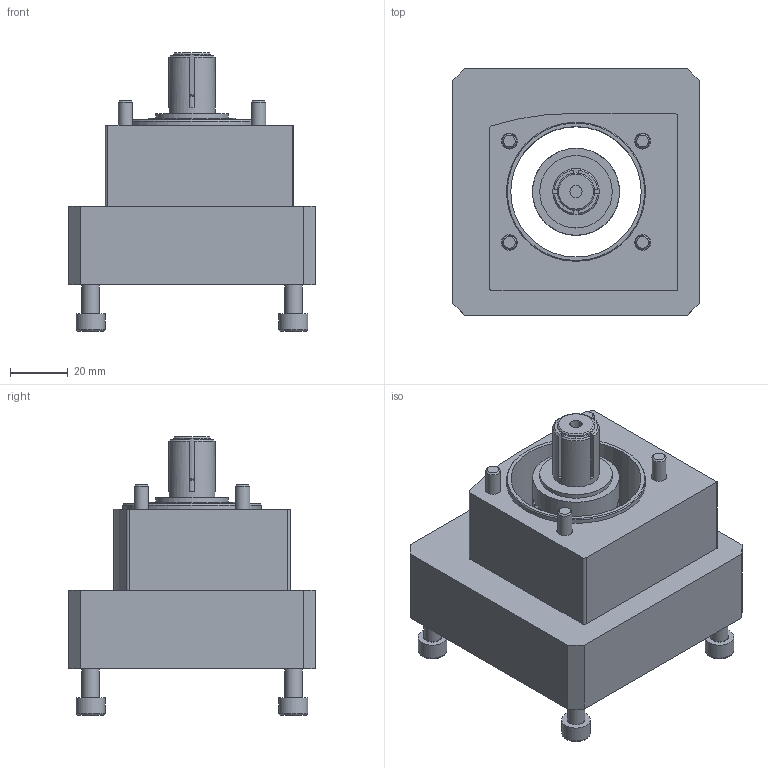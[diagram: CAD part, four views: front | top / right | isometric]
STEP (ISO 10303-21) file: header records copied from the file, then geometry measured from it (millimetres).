
FILE_DESCRIPTION(/* description */ ('EAMK-A O - Coupling housing'),/* implementation_level */ '2;1');
FILE_NAME(/* name */ 'C:\ホームページ用データ\SAMPLE_EGC-TB\モータ取付キット\3D\J08230B.stp',/* time_stamp */ '2015-03-16T14:03:16+09:00',/* author */ ('jp4te01'),/* organization */ (''),/* preprocessor_version */ 'ST-DEVELOPER v15.2',/* originating_system */ 'Autodesk Inventor 2014',/* authorisation */ '');
FILE_SCHEMA (('AUTOMOTIVE_DESIGN { 1 0 10303 214 3 1 1 }'));
Length unit declared in the file: millimetre
Products named in the file (8): 558012_EAMK_A_L48_48A_1O_; 558012_EAMK_A_L48_48A; MJS-30-ERD-14-collet-16; J08116A; コピー版 JIS B 1176 - M6 x 20; コピー版 JIS B 1176 - M5 x 55; J08230B
Bounding box: 85 x 85 x 96 mm (x, y, z)
Volume: 235683.9 mm3; surface area: 65314.3 mm2
Topology: 16 solids, 16 shells, 442 faces, 1039 edges, 636 vertices
Faces by surface type: plane 171, cone 97, cylinder 89, torus 65, bspline 20
Full cylindrical faces by diameter (mm): 2.5 x1, 3 x1, 3.5 x1, 4.2 x1, 4.917 x4, 5 x5, 5.5 x9, 6 x5, 6.75 x1, 8.5 x5, 9.5 x5, 10 x4, 16 x1, 25 x1, 30 x1, 45 x2, 48 x3
Entity records: 11282 total; most frequent: CARTESIAN_POINT 3420, DIRECTION 1661, ORIENTED_EDGE 1488, EDGE_CURVE 744, AXIS2_PLACEMENT_3D 723, VERTEX_POINT 498, EDGE_LOOP 468, CIRCLE 369
